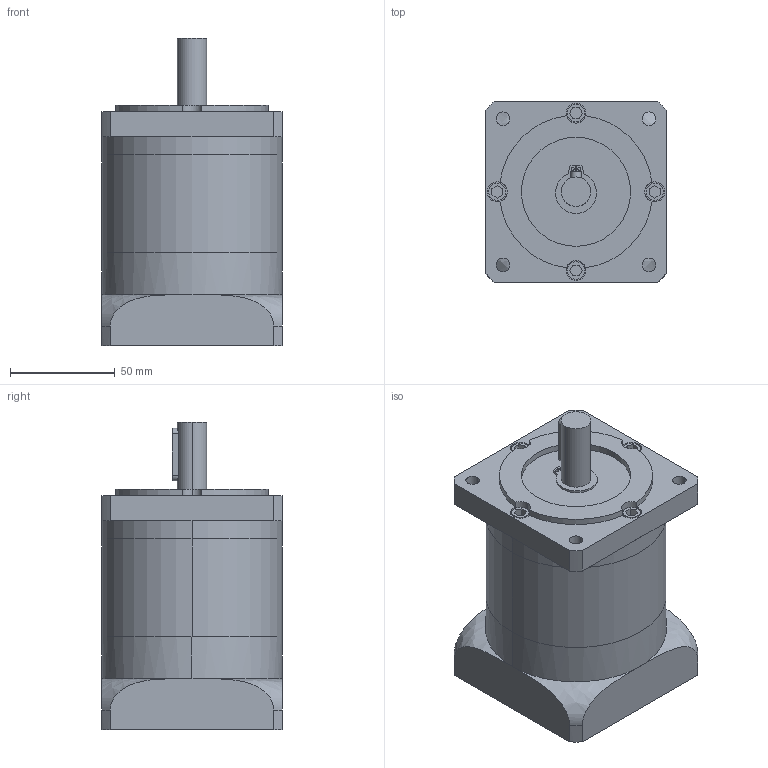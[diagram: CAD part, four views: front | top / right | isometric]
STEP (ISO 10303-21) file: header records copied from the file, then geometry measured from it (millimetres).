
FILE_DESCRIPTION (( 'STEP AP214' ), '1' );
FILE_NAME ('DLF86-L2-( )-J16.step', '2020-11-17T06:01:54', ( 'Moofasta' ), ( '' ), 'SwSTEP 2.0', 'SolidWorks 2020', '' );
FILE_SCHEMA (( 'AUTOMOTIVE_DESIGN' ));
Length unit declared in the file: millimetre
Products named in the file (1): DLF86-L2-( )-J16
Bounding box: 86 x 86 x 146.7 mm (x, y, z)
Volume: 647610.4 mm3; surface area: 89914.4 mm2
Topology: 3 solids, 3 shells, 219 faces, 541 edges, 350 vertices
Faces by surface type: plane 117, cylinder 90, cone 8, bspline 4
Entity records: 7703 total; most frequent: CARTESIAN_POINT 1940, DIRECTION 1143, ORIENTED_EDGE 1066, EDGE_CURVE 533, AXIS2_PLACEMENT_3D 413, VERTEX_POINT 350, VECTOR 317, LINE 317
